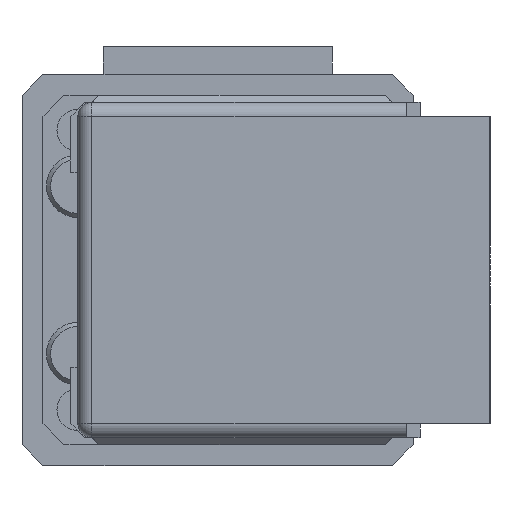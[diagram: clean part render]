
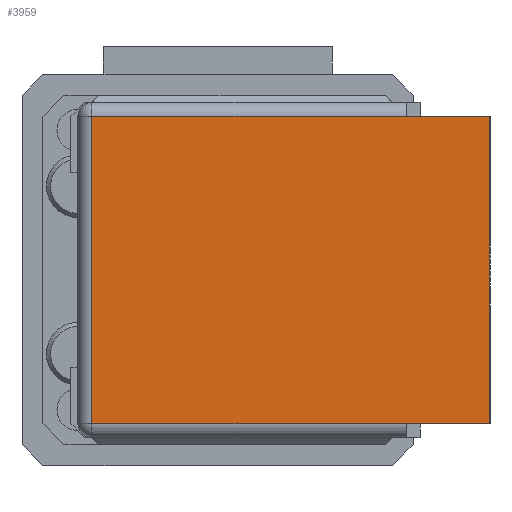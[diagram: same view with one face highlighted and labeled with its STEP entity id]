
A CAD part, left-side view. The second image highlights one B-rep face of the part: STEP entity #3959.
In plain terms, the highlighted planar face has unit normal (-1, 0, 0).
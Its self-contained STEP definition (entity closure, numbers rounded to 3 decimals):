
#322 = ORIENTED_EDGE ( 'NONE', *, *, #5761, .T. ) ;
#341 = EDGE_CURVE ( 'NONE', #6491, #1129, #1086, .T. ) ;
#442 = CARTESIAN_POINT ( 'NONE',  ( 0., 0., 11. ) ) ;
#836 = VECTOR ( 'NONE', #898, 1000. ) ;
#870 = EDGE_LOOP ( 'NONE', ( #1070, #6110, #2583, #322, #5856, #1668 ) ) ;
#898 = DIRECTION ( 'NONE',  ( 0., -1., 0. ) ) ;
#1059 = EDGE_CURVE ( 'NONE', #1627, #6969, #2623, .T. ) ;
#1070 = ORIENTED_EDGE ( 'NONE', *, *, #3424, .T. ) ;
#1086 = LINE ( 'NONE', #7081, #4057 ) ;
#1129 = VERTEX_POINT ( 'NONE', #6884 ) ;
#1147 = FACE_OUTER_BOUND ( 'NONE', #870, .T. ) ;
#1162 = CARTESIAN_POINT ( 'NONE',  ( 0., 28.5, -11. ) ) ;
#1339 = VERTEX_POINT ( 'NONE', #7266 ) ;
#1389 = LINE ( 'NONE', #2086, #7319 ) ;
#1627 = VERTEX_POINT ( 'NONE', #6242 ) ;
#1668 = ORIENTED_EDGE ( 'NONE', *, *, #3880, .T. ) ;
#1689 = VERTEX_POINT ( 'NONE', #2470 ) ;
#1740 = AXIS2_PLACEMENT_3D ( 'NONE', #5267, #7643, #4114 ) ;
#2086 = CARTESIAN_POINT ( 'NONE',  ( 0., 28.5, 11. ) ) ;
#2470 = CARTESIAN_POINT ( 'NONE',  ( 0., 0., -11. ) ) ;
#2583 = ORIENTED_EDGE ( 'NONE', *, *, #5091, .T. ) ;
#2623 = LINE ( 'NONE', #2812, #4215 ) ;
#2812 = CARTESIAN_POINT ( 'NONE',  ( 0., 6., 11. ) ) ;
#2828 = DIRECTION ( 'NONE',  ( 0., 1., 0. ) ) ;
#2964 = VECTOR ( 'NONE', #2828, 1000. ) ;
#3424 = EDGE_CURVE ( 'NONE', #1339, #6491, #1389, .T. ) ;
#3427 = CARTESIAN_POINT ( 'NONE',  ( 0., 6., 11. ) ) ;
#3504 = PLANE ( 'NONE',  #1740 ) ;
#3520 = VECTOR ( 'NONE', #5712, 1000. ) ;
#3880 = EDGE_CURVE ( 'NONE', #1627, #1339, #7683, .T. ) ;
#3938 = CARTESIAN_POINT ( 'NONE',  ( 0., 0., 11. ) ) ;
#3959 = ADVANCED_FACE ( 'NONE', ( #1147 ), #3504, .F. ) ;
#4057 = VECTOR ( 'NONE', #7633, 1000. ) ;
#4114 = DIRECTION ( 'NONE',  ( 0., 0., -1. ) ) ;
#4215 = VECTOR ( 'NONE', #7543, 1000. ) ;
#4915 = LINE ( 'NONE', #3938, #3520 ) ;
#5061 = CARTESIAN_POINT ( 'NONE',  ( 0., 6., -11. ) ) ;
#5091 = EDGE_CURVE ( 'NONE', #1129, #1689, #6770, .T. ) ;
#5267 = CARTESIAN_POINT ( 'NONE',  ( 0., 6., 11. ) ) ;
#5633 = DIRECTION ( 'NONE',  ( 0., 0., -1. ) ) ;
#5712 = DIRECTION ( 'NONE',  ( 0., 0., 1. ) ) ;
#5761 = EDGE_CURVE ( 'NONE', #1689, #6969, #4915, .T. ) ;
#5856 = ORIENTED_EDGE ( 'NONE', *, *, #1059, .F. ) ;
#6110 = ORIENTED_EDGE ( 'NONE', *, *, #341, .T. ) ;
#6242 = CARTESIAN_POINT ( 'NONE',  ( 0., 6., 11. ) ) ;
#6491 = VERTEX_POINT ( 'NONE', #1162 ) ;
#6770 = LINE ( 'NONE', #5061, #836 ) ;
#6884 = CARTESIAN_POINT ( 'NONE',  ( 0., 6., -11. ) ) ;
#6969 = VERTEX_POINT ( 'NONE', #442 ) ;
#7081 = CARTESIAN_POINT ( 'NONE',  ( 0., 6., -11. ) ) ;
#7266 = CARTESIAN_POINT ( 'NONE',  ( 0., 28.5, 11. ) ) ;
#7319 = VECTOR ( 'NONE', #5633, 1000. ) ;
#7543 = DIRECTION ( 'NONE',  ( 0., -1., 0. ) ) ;
#7633 = DIRECTION ( 'NONE',  ( 0., -1., 0. ) ) ;
#7643 = DIRECTION ( 'NONE',  ( 1., 0., 0. ) ) ;
#7683 = LINE ( 'NONE', #3427, #2964 ) ;
